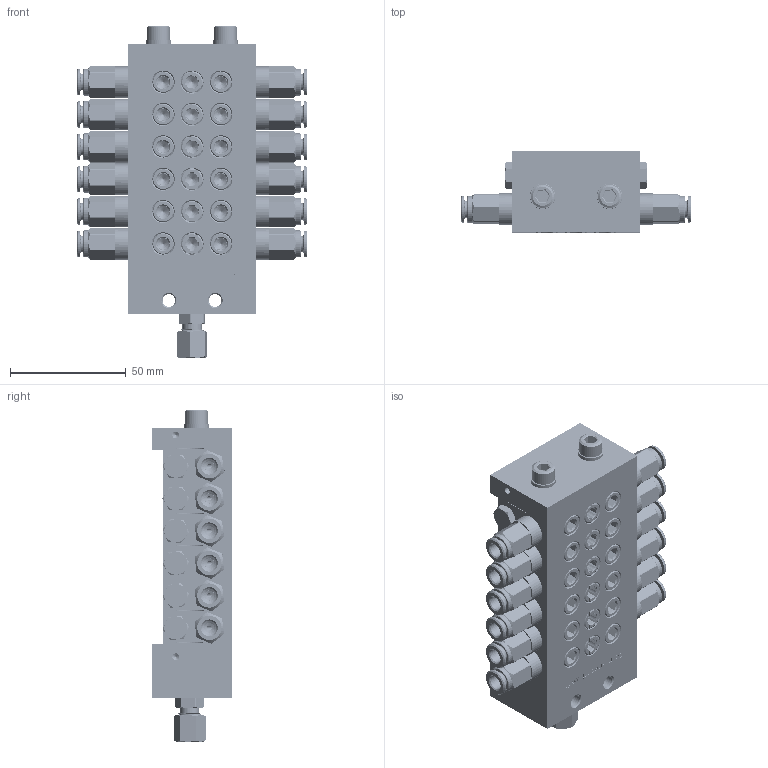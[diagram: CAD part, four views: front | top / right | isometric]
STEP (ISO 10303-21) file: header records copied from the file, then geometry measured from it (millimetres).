
FILE_DESCRIPTION (( 'STEP AP214' ), '1' );
FILE_NAME ('STW_XV_0143_12_0502_12_Auslässe.STEP', '2026-02-04T10:38:50', ( '' ), ( '' ), 'SwSTEP 2.0', 'SolidWorks 2022', '' );
FILE_SCHEMA (( 'AUTOMOTIVE_DESIGN' ));
Length unit declared in the file: millimetre
Products named in the file (18): STW_XV_ENGANG; 991214010601; STW_XV_Verbindungsstopen; STW_XV_Kolbenanschlag; RIVOLUZIONE_0_2; STW_XV_END; 991214010601_Koerper; STW_XV_MITTEL_1; U_Scheibe_6; 991214010601_Schneidring; DR6-C_HDX_25.07.16_1; Verschlussstopfen_1_8_2; XV_Mittelelement; M6X65_DIN_912; STW_XV_0143_12_0502_12_Auslässe; 991214010601_Mutter; H200139_HDS01_6_M10X1_08.05.17; OR 7.66X1.78_1
Assembly tree (52 placements, depth 3):
  STW_XV_0143_12_0502_12_Auslässe
    STW_XV_ENGANG
    STW_XV_MITTEL_1  x3
    STW_XV_END
    Verschlussstopfen_1_8_2  x6
    STW_XV_Kolbenanschlag  x6
    STW_XV_Verbindungsstopen  x3
    M6X65_DIN_912  x2
    U_Scheibe_6  x2
    991214010601
      991214010601_Koerper
      991214010601_Schneidring
      991214010601_Mutter
    XV_Mittelelement  x3
      STW_XV_MITTEL_1
      STW_XV_Kolbenanschlag
      Verschlussstopfen_1_8_2
      STW_XV_Verbindungsstopen
    H200139_HDS01_6_M10X1_08.05.17  x12
      OR 7.66X1.78_1
      DR6-C_HDX_25.07.16_1
      RIVOLUZIONE_0_2
Bounding box: 99.6 x 35 x 143.68 mm (x, y, z)
Volume: 213758.4 mm3; surface area: 126171.6 mm2
Topology: 81 solids, 81 shells, 2712 faces, 7023 edges, 4524 vertices
Faces by surface type: plane 1335, cylinder 657, cone 522, bspline 186, torus 12
Full cylindrical faces by diameter (mm): 2 x161, 3 x13, 4.2 x12, 4.5 x1, 5 x65, 5.5 x2, 5.9 x2, 6 x3, 6.2 x27, 6.3 x12, 6.4 x2, 6.5 x12, 7 x12, 7.2 x12, 7.4 x1, 7.67 x1, 8 x13, 8.3 x1, 8.4 x6, 8.5 x12, 8.6 x30, 9 x14, 9.7 x12, 9.73 x6, 9.8 x7, 9.9 x12, 10 x38, 10.3 x12, 11 x2, 11.5 x12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
Entity records: 44849 total; most frequent: CARTESIAN_POINT 22301, ORIENTED_EDGE 2994, DIRECTION 2629, EDGE_CURVE 1497, VERTEX_POINT 1072, EDGE_LOOP 1011, AXIS2_PLACEMENT_3D 941, FACE_OUTER_BOUND 812
